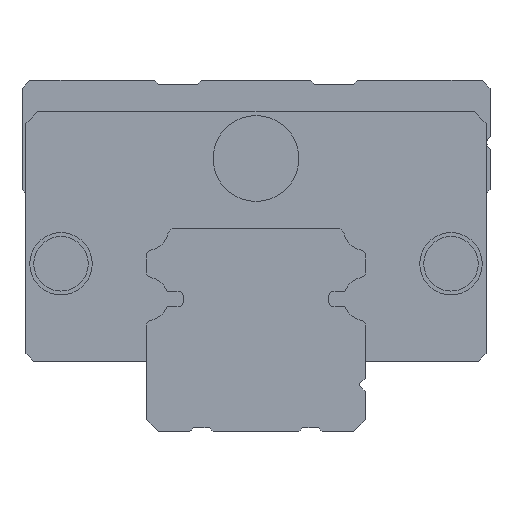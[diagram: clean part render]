
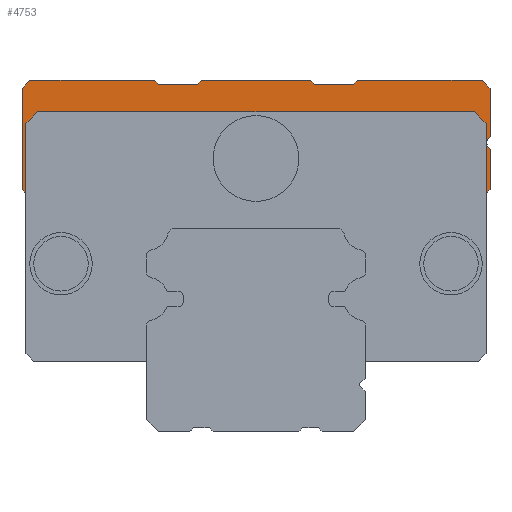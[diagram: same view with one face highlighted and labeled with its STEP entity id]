
A CAD part, left-side view. The second image highlights one B-rep face of the part: STEP entity #4753.
In plain terms, the highlighted planar face has unit normal (-1, 0, 0).
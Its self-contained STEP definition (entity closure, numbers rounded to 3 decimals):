
#4553=CARTESIAN_POINT('',(183.627,-0.04,41.131));
#4554=DIRECTION('',(1.0,0.0,0.0));
#4555=DIRECTION('',(0.0,0.0,-1.0));
#4556=AXIS2_PLACEMENT_3D('',#4553,#4554,#4555);
#4557=PLANE('',#4556);
#4558=CARTESIAN_POINT('',(183.627,-28.,41.));
#4559=VERTEX_POINT('',#4558);
#4560=CARTESIAN_POINT('',(183.627,28.,41.));
#4561=VERTEX_POINT('',#4560);
#4562=CARTESIAN_POINT('',(183.627,-28.,41.));
#4563=DIRECTION('',(0.0,1.0,0.0));
#4564=VECTOR('',#4563,56.);
#4565=LINE('',#4562,#4564);
#4566=EDGE_CURVE('',#4559,#4561,#4565,.T.);
#4567=ORIENTED_EDGE('',*,*,#4566,.F.);
#4568=CARTESIAN_POINT('',(183.627,-29.5,39.5));
#4569=VERTEX_POINT('',#4568);
#4570=CARTESIAN_POINT('',(183.627,-29.5,39.5));
#4571=DIRECTION('',(0.0,0.707,0.707));
#4572=VECTOR('',#4571,2.121);
#4573=LINE('',#4570,#4572);
#4574=EDGE_CURVE('',#4569,#4559,#4573,.T.);
#4575=ORIENTED_EDGE('',*,*,#4574,.F.);
#4576=CARTESIAN_POINT('',(183.627,-29.5,30.5));
#4577=VERTEX_POINT('',#4576);
#4578=CARTESIAN_POINT('',(183.627,-29.5,30.5));
#4579=DIRECTION('',(0.0,0.0,1.0));
#4580=VECTOR('',#4579,9.);
#4581=LINE('',#4578,#4580);
#4582=EDGE_CURVE('',#4577,#4569,#4581,.T.);
#4583=ORIENTED_EDGE('',*,*,#4582,.F.);
#4584=CARTESIAN_POINT('',(183.627,-30.0,31.0));
#4585=VERTEX_POINT('',#4584);
#4586=CARTESIAN_POINT('',(183.627,-30.0,31.0));
#4587=DIRECTION('',(0.0,0.707,-0.707));
#4588=VECTOR('',#4587,0.707);
#4589=LINE('',#4586,#4588);
#4590=EDGE_CURVE('',#4585,#4577,#4589,.T.);
#4591=ORIENTED_EDGE('',*,*,#4590,.F.);
#4592=CARTESIAN_POINT('',(183.627,-30.0,36.193));
#4593=VERTEX_POINT('',#4592);
#4594=CARTESIAN_POINT('',(183.627,-30.0,36.193));
#4595=DIRECTION('',(0.0,0.0,-1.0));
#4596=VECTOR('',#4595,5.193);
#4597=LINE('',#4594,#4596);
#4598=EDGE_CURVE('',#4593,#4585,#4597,.T.);
#4599=ORIENTED_EDGE('',*,*,#4598,.F.);
#4600=CARTESIAN_POINT('',(183.627,-29.9,36.293));
#4601=VERTEX_POINT('',#4600);
#4602=CARTESIAN_POINT('',(183.627,-29.9,36.293));
#4603=DIRECTION('',(0.0,-0.707,-0.707));
#4604=VECTOR('',#4603,0.142);
#4605=LINE('',#4602,#4604);
#4606=EDGE_CURVE('',#4601,#4593,#4605,.T.);
#4607=ORIENTED_EDGE('',*,*,#4606,.F.);
#4608=CARTESIAN_POINT('',(183.627,-29.9,37.707));
#4609=VERTEX_POINT('',#4608);
#4610=CARTESIAN_POINT('',(183.627,-30.607,37.));
#4611=DIRECTION('',(-1.,0.0,0.0));
#4612=DIRECTION('',(0.0,-0.707,0.707));
#4613=AXIS2_PLACEMENT_3D('',#4610,#4611,#4612);
#4614=CIRCLE('',#4613,1.);
#4615=EDGE_CURVE('',#4609,#4601,#4614,.T.);
#4616=ORIENTED_EDGE('',*,*,#4615,.F.);
#4617=CARTESIAN_POINT('',(183.627,-30.0,37.807));
#4618=VERTEX_POINT('',#4617);
#4619=CARTESIAN_POINT('',(183.627,-30.0,37.807));
#4620=DIRECTION('',(0.0,0.707,-0.707));
#4621=VECTOR('',#4620,0.142);
#4622=LINE('',#4619,#4621);
#4623=EDGE_CURVE('',#4618,#4609,#4622,.T.);
#4624=ORIENTED_EDGE('',*,*,#4623,.F.);
#4625=CARTESIAN_POINT('',(183.627,-30.0,44.0));
#4626=VERTEX_POINT('',#4625);
#4627=CARTESIAN_POINT('',(183.627,-30.0,44.0));
#4628=DIRECTION('',(0.0,0.0,-1.0));
#4629=VECTOR('',#4628,6.193);
#4630=LINE('',#4627,#4629);
#4631=EDGE_CURVE('',#4626,#4618,#4630,.T.);
#4632=ORIENTED_EDGE('',*,*,#4631,.F.);
#4633=CARTESIAN_POINT('',(183.627,-29.,45.0));
#4634=VERTEX_POINT('',#4633);
#4635=CARTESIAN_POINT('',(183.627,-29.,45.0));
#4636=DIRECTION('',(0.0,-0.707,-0.707));
#4637=VECTOR('',#4636,1.414);
#4638=LINE('',#4635,#4637);
#4639=EDGE_CURVE('',#4634,#4626,#4638,.T.);
#4640=ORIENTED_EDGE('',*,*,#4639,.F.);
#4641=CARTESIAN_POINT('',(183.627,-13.0,45.0));
#4642=VERTEX_POINT('',#4641);
#4643=CARTESIAN_POINT('',(183.627,-13.0,45.0));
#4644=DIRECTION('',(0.0,-1.0,0.0));
#4645=VECTOR('',#4644,16.);
#4646=LINE('',#4643,#4645);
#4647=EDGE_CURVE('',#4642,#4634,#4646,.T.);
#4648=ORIENTED_EDGE('',*,*,#4647,.F.);
#4649=CARTESIAN_POINT('',(183.627,-12.5,44.5));
#4650=VERTEX_POINT('',#4649);
#4651=CARTESIAN_POINT('',(183.627,-12.5,44.5));
#4652=DIRECTION('',(0.0,-0.707,0.707));
#4653=VECTOR('',#4652,0.707);
#4654=LINE('',#4651,#4653);
#4655=EDGE_CURVE('',#4650,#4642,#4654,.T.);
#4656=ORIENTED_EDGE('',*,*,#4655,.F.);
#4657=CARTESIAN_POINT('',(183.627,-7.5,44.5));
#4658=VERTEX_POINT('',#4657);
#4659=CARTESIAN_POINT('',(183.627,-7.5,44.5));
#4660=DIRECTION('',(0.0,-1.0,0.0));
#4661=VECTOR('',#4660,5.0);
#4662=LINE('',#4659,#4661);
#4663=EDGE_CURVE('',#4658,#4650,#4662,.T.);
#4664=ORIENTED_EDGE('',*,*,#4663,.F.);
#4665=CARTESIAN_POINT('',(183.627,-7.,45.0));
#4666=VERTEX_POINT('',#4665);
#4667=CARTESIAN_POINT('',(183.627,-7.,45.0));
#4668=DIRECTION('',(0.0,-0.707,-0.707));
#4669=VECTOR('',#4668,0.707);
#4670=LINE('',#4667,#4669);
#4671=EDGE_CURVE('',#4666,#4658,#4670,.T.);
#4672=ORIENTED_EDGE('',*,*,#4671,.F.);
#4673=CARTESIAN_POINT('',(183.627,7.,45.0));
#4674=VERTEX_POINT('',#4673);
#4675=CARTESIAN_POINT('',(183.627,7.,45.0));
#4676=DIRECTION('',(0.0,-1.0,0.0));
#4677=VECTOR('',#4676,14.0);
#4678=LINE('',#4675,#4677);
#4679=EDGE_CURVE('',#4674,#4666,#4678,.T.);
#4680=ORIENTED_EDGE('',*,*,#4679,.F.);
#4681=CARTESIAN_POINT('',(183.627,7.5,44.5));
#4682=VERTEX_POINT('',#4681);
#4683=CARTESIAN_POINT('',(183.627,7.5,44.5));
#4684=DIRECTION('',(0.0,-0.707,0.707));
#4685=VECTOR('',#4684,0.707);
#4686=LINE('',#4683,#4685);
#4687=EDGE_CURVE('',#4682,#4674,#4686,.T.);
#4688=ORIENTED_EDGE('',*,*,#4687,.F.);
#4689=CARTESIAN_POINT('',(183.627,12.5,44.5));
#4690=VERTEX_POINT('',#4689);
#4691=CARTESIAN_POINT('',(183.627,12.5,44.5));
#4692=DIRECTION('',(0.0,-1.0,0.0));
#4693=VECTOR('',#4692,5.0);
#4694=LINE('',#4691,#4693);
#4695=EDGE_CURVE('',#4690,#4682,#4694,.T.);
#4696=ORIENTED_EDGE('',*,*,#4695,.F.);
#4697=CARTESIAN_POINT('',(183.627,13.,45.0));
#4698=VERTEX_POINT('',#4697);
#4699=CARTESIAN_POINT('',(183.627,13.,45.0));
#4700=DIRECTION('',(0.0,-0.707,-0.707));
#4701=VECTOR('',#4700,0.707);
#4702=LINE('',#4699,#4701);
#4703=EDGE_CURVE('',#4698,#4690,#4702,.T.);
#4704=ORIENTED_EDGE('',*,*,#4703,.F.);
#4705=CARTESIAN_POINT('',(183.627,29.,45.0));
#4706=VERTEX_POINT('',#4705);
#4707=CARTESIAN_POINT('',(183.627,29.,45.0));
#4708=DIRECTION('',(0.0,-1.0,0.0));
#4709=VECTOR('',#4708,16.);
#4710=LINE('',#4707,#4709);
#4711=EDGE_CURVE('',#4706,#4698,#4710,.T.);
#4712=ORIENTED_EDGE('',*,*,#4711,.F.);
#4713=CARTESIAN_POINT('',(183.627,30.0,44.0));
#4714=VERTEX_POINT('',#4713);
#4715=CARTESIAN_POINT('',(183.627,30.0,44.0));
#4716=DIRECTION('',(0.0,-0.707,0.707));
#4717=VECTOR('',#4716,1.414);
#4718=LINE('',#4715,#4717);
#4719=EDGE_CURVE('',#4714,#4706,#4718,.T.);
#4720=ORIENTED_EDGE('',*,*,#4719,.F.);
#4721=CARTESIAN_POINT('',(183.627,30.,31.));
#4722=VERTEX_POINT('',#4721);
#4723=CARTESIAN_POINT('',(183.627,30.,31.));
#4724=DIRECTION('',(0.0,0.0,1.0));
#4725=VECTOR('',#4724,13.);
#4726=LINE('',#4723,#4725);
#4727=EDGE_CURVE('',#4722,#4714,#4726,.T.);
#4728=ORIENTED_EDGE('',*,*,#4727,.F.);
#4729=CARTESIAN_POINT('',(183.627,29.5,30.5));
#4730=VERTEX_POINT('',#4729);
#4731=CARTESIAN_POINT('',(183.627,29.5,30.5));
#4732=DIRECTION('',(0.0,0.707,0.707));
#4733=VECTOR('',#4732,0.707);
#4734=LINE('',#4731,#4733);
#4735=EDGE_CURVE('',#4730,#4722,#4734,.T.);
#4736=ORIENTED_EDGE('',*,*,#4735,.F.);
#4737=CARTESIAN_POINT('',(183.627,29.5,39.5));
#4738=VERTEX_POINT('',#4737);
#4739=CARTESIAN_POINT('',(183.627,29.5,39.5));
#4740=DIRECTION('',(0.0,0.0,-1.0));
#4741=VECTOR('',#4740,9.);
#4742=LINE('',#4739,#4741);
#4743=EDGE_CURVE('',#4738,#4730,#4742,.T.);
#4744=ORIENTED_EDGE('',*,*,#4743,.F.);
#4745=CARTESIAN_POINT('',(183.627,28.,41.));
#4746=DIRECTION('',(0.0,0.707,-0.707));
#4747=VECTOR('',#4746,2.121);
#4748=LINE('',#4745,#4747);
#4749=EDGE_CURVE('',#4561,#4738,#4748,.T.);
#4750=ORIENTED_EDGE('',*,*,#4749,.F.);
#4751=EDGE_LOOP('',(#4567,#4575,#4583,#4591,#4599,#4607,#4616,#4624,#4632,#4640,#4648,#4656,#4664,#4672,#4680,#4688,#4696,#4704,#4712,#4720,#4728,#4736,#4744,#4750));
#4752=FACE_OUTER_BOUND('',#4751,.T.);
#4753=ADVANCED_FACE('',(#4752),#4557,.F.);
